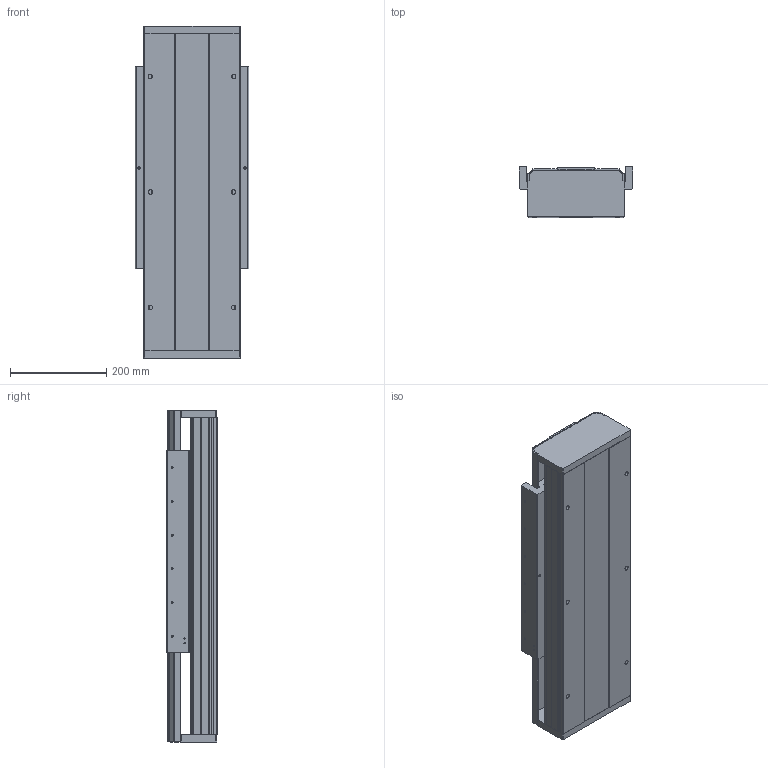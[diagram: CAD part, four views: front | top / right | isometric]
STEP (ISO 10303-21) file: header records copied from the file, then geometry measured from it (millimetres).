
FILE_DESCRIPTION (( 'STEP AP214' ), '1' );
FILE_NAME ('RF20-6-1-S.STEP', '2016-12-06T05:52:23', ( 'baejh' ), ( '' ), 'SwSTEP 2.0', 'SolidWorks 2014', '' );
FILE_SCHEMA (( 'AUTOMOTIVE_DESIGN' ));
Length unit declared in the file: millimetre
Products named in the file (1): RF20-6-1-S
Bounding box: 236 x 105 x 690 mm (x, y, z)
Volume: 6183375.3 mm3; surface area: 1429129.1 mm2
Topology: 5 solids, 5 shells, 430 faces, 1218 edges, 788 vertices
Faces by surface type: plane 246, cylinder 160, cone 24
Entity records: 14456 total; most frequent: CARTESIAN_POINT 2413, DIRECTION 2388, ORIENTED_EDGE 2388, EDGE_CURVE 1194, LINE 862, VECTOR 862, VERTEX_POINT 788, AXIS2_PLACEMENT_3D 763
